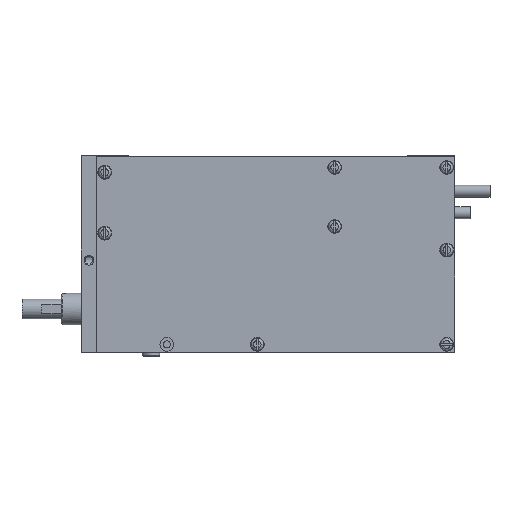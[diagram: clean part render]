
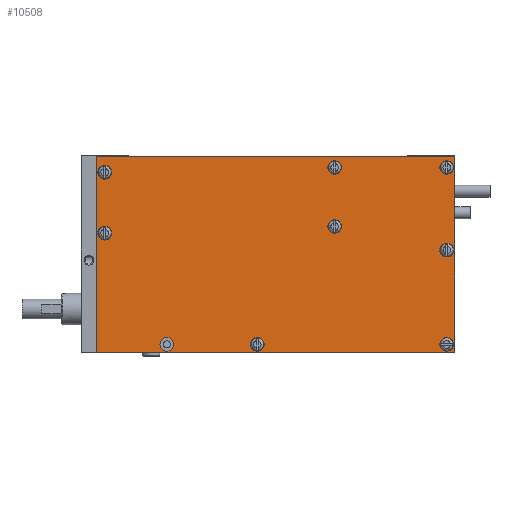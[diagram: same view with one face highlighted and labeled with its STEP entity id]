
A CAD part, top view. The second image highlights one B-rep face of the part: STEP entity #10508.
In plain terms, the highlighted planar face has unit normal (0, 0, 1).
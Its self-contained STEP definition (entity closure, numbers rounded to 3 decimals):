
#8093=CARTESIAN_POINT('',(0.0,-37.22,1.598));
#8094=VERTEX_POINT('',#8093);
#8101=CARTESIAN_POINT('',(0.,12.58,1.598));
#8102=VERTEX_POINT('',#8101);
#8103=CARTESIAN_POINT('',(0.0,-37.22,1.598));
#8104=DIRECTION('',(0.0,1.0,0.0));
#8105=VECTOR('',#8104,49.8);
#8106=LINE('',#8103,#8105);
#8107=EDGE_CURVE('',#8094,#8102,#8106,.T.);
#9321=CARTESIAN_POINT('',(62.45,-5.22,1.598));
#9322=VERTEX_POINT('',#9321);
#9323=CARTESIAN_POINT('',(60.7,-5.22,1.598));
#9324=DIRECTION('',(0.0,0.0,-1.0));
#9325=DIRECTION('',(1.0,0.0,0.0));
#9326=AXIS2_PLACEMENT_3D('',#9323,#9324,#9325);
#9327=CIRCLE('',#9326,1.75);
#9328=EDGE_CURVE('',#9322,#9322,#9327,.T.);
#9423=CARTESIAN_POINT('',(90.95,-35.22,1.598));
#9424=VERTEX_POINT('',#9423);
#9425=CARTESIAN_POINT('',(89.2,-35.22,1.598));
#9426=DIRECTION('',(0.0,0.0,-1.0));
#9427=DIRECTION('',(1.0,0.0,0.0));
#9428=AXIS2_PLACEMENT_3D('',#9425,#9426,#9427);
#9429=CIRCLE('',#9428,1.75);
#9430=EDGE_CURVE('',#9424,#9424,#9429,.T.);
#9525=CARTESIAN_POINT('',(90.95,-11.22,1.598));
#9526=VERTEX_POINT('',#9525);
#9527=CARTESIAN_POINT('',(89.2,-11.22,1.598));
#9528=DIRECTION('',(0.0,0.0,-1.0));
#9529=DIRECTION('',(1.0,0.0,0.0));
#9530=AXIS2_PLACEMENT_3D('',#9527,#9528,#9529);
#9531=CIRCLE('',#9530,1.75);
#9532=EDGE_CURVE('',#9526,#9526,#9531,.T.);
#9627=CARTESIAN_POINT('',(42.75,-35.22,1.598));
#9628=VERTEX_POINT('',#9627);
#9629=CARTESIAN_POINT('',(41.0,-35.22,1.598));
#9630=DIRECTION('',(0.0,0.0,-1.0));
#9631=DIRECTION('',(1.0,0.0,0.0));
#9632=AXIS2_PLACEMENT_3D('',#9629,#9630,#9631);
#9633=CIRCLE('',#9632,1.75);
#9634=EDGE_CURVE('',#9628,#9628,#9633,.T.);
#9729=CARTESIAN_POINT('',(62.45,9.78,1.598));
#9730=VERTEX_POINT('',#9729);
#9731=CARTESIAN_POINT('',(60.7,9.78,1.598));
#9732=DIRECTION('',(0.0,0.0,-1.0));
#9733=DIRECTION('',(1.0,0.0,0.0));
#9734=AXIS2_PLACEMENT_3D('',#9731,#9732,#9733);
#9735=CIRCLE('',#9734,1.75);
#9736=EDGE_CURVE('',#9730,#9730,#9735,.T.);
#9860=CARTESIAN_POINT('',(90.95,9.78,1.598));
#9861=VERTEX_POINT('',#9860);
#9862=CARTESIAN_POINT('',(89.2,9.78,1.598));
#9863=DIRECTION('',(0.0,0.0,-1.0));
#9864=DIRECTION('',(1.0,0.0,0.0));
#9865=AXIS2_PLACEMENT_3D('',#9862,#9863,#9864);
#9866=CIRCLE('',#9865,1.75);
#9867=EDGE_CURVE('',#9861,#9861,#9866,.T.);
#10153=CARTESIAN_POINT('',(19.75,-35.22,1.598));
#10154=VERTEX_POINT('',#10153);
#10155=CARTESIAN_POINT('',(18.0,-35.22,1.598));
#10156=DIRECTION('',(0.0,0.0,-1.0));
#10157=DIRECTION('',(1.0,0.0,0.0));
#10158=AXIS2_PLACEMENT_3D('',#10155,#10156,#10157);
#10159=CIRCLE('',#10158,1.75);
#10160=EDGE_CURVE('',#10154,#10154,#10159,.T.);
#10255=CARTESIAN_POINT('',(3.95,-6.92,1.598));
#10256=VERTEX_POINT('',#10255);
#10257=CARTESIAN_POINT('',(2.2,-6.92,1.598));
#10258=DIRECTION('',(0.0,0.0,-1.0));
#10259=DIRECTION('',(1.0,0.0,0.0));
#10260=AXIS2_PLACEMENT_3D('',#10257,#10258,#10259);
#10261=CIRCLE('',#10260,1.75);
#10262=EDGE_CURVE('',#10256,#10256,#10261,.T.);
#10357=CARTESIAN_POINT('',(3.95,8.58,1.598));
#10358=VERTEX_POINT('',#10357);
#10359=CARTESIAN_POINT('',(2.2,8.58,1.598));
#10360=DIRECTION('',(0.0,0.0,-1.0));
#10361=DIRECTION('',(1.0,0.0,0.0));
#10362=AXIS2_PLACEMENT_3D('',#10359,#10360,#10361);
#10363=CIRCLE('',#10362,1.75);
#10364=EDGE_CURVE('',#10358,#10358,#10363,.T.);
#10410=CARTESIAN_POINT('',(91.2,12.58,1.598));
#10411=VERTEX_POINT('',#10410);
#10412=CARTESIAN_POINT('',(91.2,-37.22,1.598));
#10413=VERTEX_POINT('',#10412);
#10414=CARTESIAN_POINT('',(91.2,12.58,1.598));
#10415=DIRECTION('',(0.0,-1.0,0.0));
#10416=VECTOR('',#10415,49.8);
#10417=LINE('',#10414,#10416);
#10418=EDGE_CURVE('',#10411,#10413,#10417,.T.);
#10441=CARTESIAN_POINT('',(91.2,-37.22,1.598));
#10442=DIRECTION('',(-1.0,0.0,0.0));
#10443=VECTOR('',#10442,91.2);
#10444=LINE('',#10441,#10443);
#10445=EDGE_CURVE('',#10413,#8094,#10444,.T.);
#10458=CARTESIAN_POINT('',(0.,12.58,1.598));
#10459=DIRECTION('',(1.0,0.0,0.0));
#10460=VECTOR('',#10459,91.2);
#10461=LINE('',#10458,#10460);
#10462=EDGE_CURVE('',#8102,#10411,#10461,.T.);
#10470=CARTESIAN_POINT('',(45.6,-12.32,1.598));
#10471=DIRECTION('',(0.0,0.0,1.0));
#10472=DIRECTION('',(1.0,0.0,0.0));
#10473=AXIS2_PLACEMENT_3D('',#10470,#10471,#10472);
#10474=PLANE('',#10473);
#10475=ORIENTED_EDGE('',*,*,#10418,.F.);
#10476=ORIENTED_EDGE('',*,*,#10462,.F.);
#10477=ORIENTED_EDGE('',*,*,#8107,.F.);
#10478=ORIENTED_EDGE('',*,*,#10445,.F.);
#10479=EDGE_LOOP('',(#10475,#10476,#10477,#10478));
#10480=FACE_OUTER_BOUND('',#10479,.T.);
#10481=ORIENTED_EDGE('',*,*,#9328,.T.);
#10482=EDGE_LOOP('',(#10481));
#10483=FACE_BOUND('',#10482,.T.);
#10484=ORIENTED_EDGE('',*,*,#9430,.T.);
#10485=EDGE_LOOP('',(#10484));
#10486=FACE_BOUND('',#10485,.T.);
#10487=ORIENTED_EDGE('',*,*,#9532,.T.);
#10488=EDGE_LOOP('',(#10487));
#10489=FACE_BOUND('',#10488,.T.);
#10490=ORIENTED_EDGE('',*,*,#9634,.T.);
#10491=EDGE_LOOP('',(#10490));
#10492=FACE_BOUND('',#10491,.T.);
#10493=ORIENTED_EDGE('',*,*,#9736,.T.);
#10494=EDGE_LOOP('',(#10493));
#10495=FACE_BOUND('',#10494,.T.);
#10496=ORIENTED_EDGE('',*,*,#9867,.T.);
#10497=EDGE_LOOP('',(#10496));
#10498=FACE_BOUND('',#10497,.T.);
#10499=ORIENTED_EDGE('',*,*,#10160,.T.);
#10500=EDGE_LOOP('',(#10499));
#10501=FACE_BOUND('',#10500,.T.);
#10502=ORIENTED_EDGE('',*,*,#10262,.T.);
#10503=EDGE_LOOP('',(#10502));
#10504=FACE_BOUND('',#10503,.T.);
#10505=ORIENTED_EDGE('',*,*,#10364,.T.);
#10506=EDGE_LOOP('',(#10505));
#10507=FACE_BOUND('',#10506,.T.);
#10508=ADVANCED_FACE('',(#10480,#10483,#10486,#10489,#10492,#10495,#10498,#10501,#10504,#10507),#10474,.T.);
